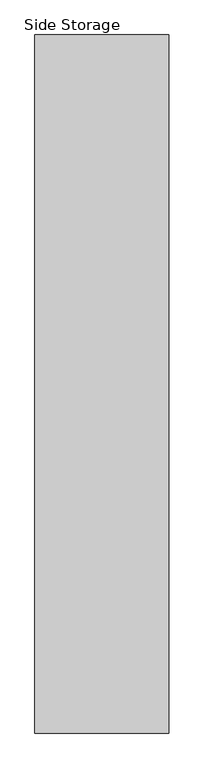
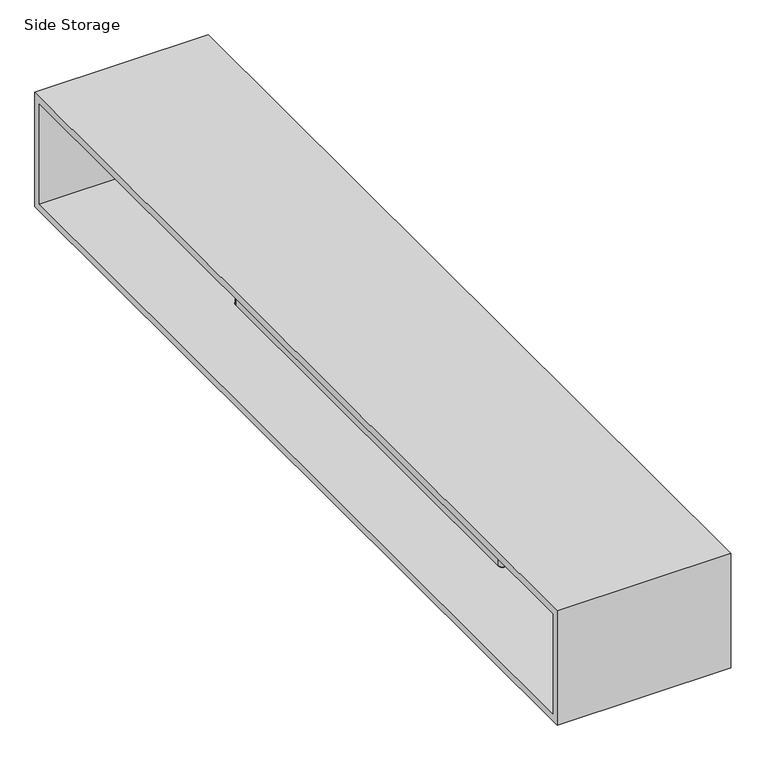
"""IFC4 building model written with IfcOpenShell, lengths in millimetres: furniture geometry, Steelcase Turnstone - Bivi - Arch Accessories - Side Storage : Side Storage."""

from ifc_helpers import new_model, si_unit, point, frame, frame_2d, origin, place, context, project, spatial, polyline, circle_curve, trimmed, segment, composite_curve, outline, extrude, source, transform, mapped, element, save
from ifc_brep_helpers import plane_surface, revolved_surface, advanced_brep


def side_storage_3572fcca(model_context):
    return source(origin(), model_context, "Body", "SolidModel", [
        advanced_brep(
        [(932.561, -585.2795, 1077.5188), (932.561, -585.2795, 873.5568), (932.561, 937.7045, 873.5568), (932.561, 937.7045, 1077.5188), (932.561, 924.6235, 1064.4378), (932.561, 924.6235, 886.6378), (932.561, -572.1985, 886.6378), (932.561, -572.1985, 1064.4378), (640.461, -585.2795, 1077.5188), (640.461, 937.7045, 1077.5188), (640.461, 937.7045, 873.5568), (640.461, -585.2795, 873.5568), (640.461, 924.6235, 1064.4378), (640.461, -572.1985, 1064.4378), (640.461, -572.1985, 886.6378), (640.461, 924.6235, 886.6378), (766.0005, 566.7375, 873.5568), (759.6505, 560.3875, 873.5568), (759.6505, -207.9625, 873.5568), (766.0005, -214.3125, 873.5568), (804.8552799, -214.3125, 873.5568), (812.4825, -206.6852799, 873.5568), (812.4825, 559.1102799, 873.5568), (804.8552799, 566.7375, 873.5568), (759.6505, 560.3875, 886.6378), (766.0005, 566.7375, 886.6378), (804.8552799, 566.7375, 886.6378), (812.4825, 559.1102799, 886.6378), (812.4825, -206.6852799, 886.6378), (804.8552799, -214.3125, 886.6378), (766.0005, -214.3125, 886.6378), (759.6505, -207.9625, 886.6378)],
        [
            (0, 1),
            (1, 2),
            (2, 3),
            (3, 0),
            (4, 5),
            (5, 6),
            (6, 7),
            (7, 4),
            (8, 9),
            (9, 10),
            (10, 11),
            (11, 8),
            (12, 13),
            (13, 14),
            (14, 15),
            (15, 12),
            (0, 8),
            (11, 1),
            (10, 2),
            (16, 17, circle_curve(frame((766.0005, 560.3875, 873.5568), z_axis=(0.0, 0.0, 1.0), x_axis=(1.0, 0.0, 0.0)), 6.35)),
            (17, 18),
            (18, 19, circle_curve(frame((766.0005, -207.9625, 873.5568), z_axis=(0.0, 0.0, 1.0), x_axis=(1.0, 0.0, 0.0)), 6.35)),
            (19, 20),
            (20, 21, circle_curve(frame((804.8552799, -206.6852799, 873.5568), z_axis=(0.0, 0.0, 1.0), x_axis=(1.0, 0.0, 0.0)), 7.6272201)),
            (21, 22),
            (22, 23, circle_curve(frame((804.8552799, 559.1102799, 873.5568), z_axis=(0.0, 0.0, 1.0), x_axis=(1.0, 0.0, 0.0)), 7.6272201)),
            (23, 16),
            (9, 3),
            (4, 12),
            (15, 5),
            (14, 6),
            (24, 25, circle_curve(frame((766.0005, 560.3875, 886.6378), z_axis=(0.0, 0.0, -1.0), x_axis=(1.0, 0.0, 0.0)), 6.35)),
            (25, 26),
            (26, 27, circle_curve(frame((804.8552799, 559.1102799, 886.6378), z_axis=(0.0, 0.0, -1.0), x_axis=(1.0, 0.0, 0.0)), 7.6272201)),
            (27, 28),
            (28, 29, circle_curve(frame((804.8552799, -206.6852799, 886.6378), z_axis=(0.0, 0.0, -1.0), x_axis=(1.0, 0.0, 0.0)), 7.6272201)),
            (29, 30),
            (30, 31, circle_curve(frame((766.0005, -207.9625, 886.6378), z_axis=(0.0, 0.0, -1.0), x_axis=(1.0, 0.0, 0.0)), 6.35)),
            (31, 24),
            (13, 7),
            (16, 25),
            (24, 17),
            (31, 18),
            (30, 19),
            (29, 20),
            (28, 21),
            (27, 22),
            (26, 23),
        ],
        [
            plane_surface(frame((932.561, -585.2795, 1077.5188), z_axis=(1.0, 0.0, 0.0), x_axis=(0.0, 0.0, -1.0))),
            plane_surface(frame((640.461, -585.2795, 1077.5188), z_axis=(-1.0, 0.0, 0.0), x_axis=(0.0, 0.0, 1.0))),
            plane_surface(frame((932.561, -585.2795, 1077.5188), z_axis=(0.0, -1.0, 0.0), x_axis=(-1.0, 0.0, 0.0))),
            plane_surface(frame((932.561, -585.2795, 873.5568), z_axis=(0.0, 0.0, -1.0), x_axis=(-1.0, 0.0, 0.0))),
            plane_surface(frame((932.561, 937.7045, 873.5568), z_axis=(0.0, 1.0, 0.0), x_axis=(-1.0, 0.0, 0.0))),
            plane_surface(frame((932.561, 937.7045, 1077.5188), z_axis=(0.0, 0.0, 1.0), x_axis=(-1.0, 0.0, 0.0))),
            plane_surface(frame((932.561, 924.6235, 1064.4378), z_axis=(0.0, -1.0, 0.0), x_axis=(-1.0, 0.0, 0.0))),
            plane_surface(frame((932.561, 924.6235, 886.6378), z_axis=(0.0, 0.0, 1.0), x_axis=(-1.0, 0.0, 0.0))),
            plane_surface(frame((932.561, -572.1985, 886.6378), z_axis=(0.0, 1.0, 0.0), x_axis=(-1.0, 0.0, 0.0))),
            plane_surface(frame((932.561, -572.1985, 1064.4378), z_axis=(0.0, 0.0, -1.0), x_axis=(-1.0, 0.0, 0.0))),
            revolved_surface(polyline([(772.3505, 560.3875, 886.6378), (772.3505, 560.3875, 873.5568)]), (766.0005, 560.3875, 860.8568), (0.0, 0.0, 1.0)),
            plane_surface(frame((759.6505, 560.3875, 886.6378), z_axis=(1.0, 0.0, 0.0), x_axis=(0.0, 0.0, -1.0))),
            revolved_surface(polyline([(772.3505, -207.9625, 886.6378), (772.3505, -207.9625, 873.5568)]), (766.0005, -207.9625, 860.8568), (0.0, 0.0, 1.0)),
            plane_surface(frame((766.0005, -214.3125, 886.6378), z_axis=(0.0, 1.0, 0.0), x_axis=(0.0, 0.0, -1.0))),
            revolved_surface(polyline([(812.4825000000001, -206.6852799, 886.6378), (812.4825000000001, -206.6852799, 873.5568)]), (804.8552799, -206.6852799, 860.8568), (0.0, 0.0, 1.0)),
            plane_surface(frame((812.4825, -206.6852799, 886.6378), z_axis=(-1.0, 0.0, 0.0), x_axis=(0.0, 0.0, -1.0))),
            revolved_surface(polyline([(812.4825000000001, 559.1102799, 886.6378), (812.4825000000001, 559.1102799, 873.5568)]), (804.8552799, 559.1102799, 860.8568), (0.0, 0.0, 1.0)),
            plane_surface(frame((804.8552799, 566.7375, 886.6378), z_axis=(0.0, -1.0, 0.0), x_axis=(0.0, 0.0, -1.0))),
        ],
        [
            (0, [[1, 2, 3, 4], [5, 6, 7, 8]]),
            (1, [[9, 10, 11, 12], [13, 14, 15, 16]]),
            (2, [[-1, 17, -12, 18]]),
            (3, [[-2, -18, -11, 19], [20, 21, 22, 23, 24, 25, 26, 27]]),
            (4, [[-3, -19, -10, 28]]),
            (5, [[-4, -28, -9, -17]]),
            (6, [[-5, 29, -16, 30]]),
            (7, [[-6, -30, -15, 31], [32, 33, 34, 35, 36, 37, 38, 39]]),
            (8, [[-7, -31, -14, 40]]),
            (9, [[-8, -40, -13, -29]]),
            (10, [[41, -32, 42, -20]]),
            (11, [[-42, -39, 43, -21]]),
            (12, [[-43, -38, 44, -22]]),
            (13, [[-44, -37, 45, -23]]),
            (14, [[-45, -36, 46, -24]]),
            (15, [[-46, -35, 47, -25]]),
            (16, [[-47, -34, 48, -26]]),
            (17, [[-41, -27, -48, -33]]),
        ],
    ),
        extrude(outline(composite_curve([segment(polyline([(766.8498453, 565.4675), (805.368444, 565.4675)]), True, "CONTINUOUS"), segment(trimmed(circle_curve(frame_2d((805.368444, 558.353444)), 7.114056), [point((805.368444, 565.4675))], [point((812.4825, 558.353444))], False, "CARTESIAN"), True, "CONTINUOUS"), segment(polyline([(812.4825, 558.353444), (812.4825, -205.1637714)]), True, "CONTINUOUS"), segment(trimmed(circle_curve(frame_2d((804.6037714, -205.1637714)), 7.8787286), [point((812.4825, -205.1637714))], [point((804.6037714, -213.0425))], False, "CARTESIAN"), True, "CONTINUOUS"), segment(polyline([(804.6037714, -213.0425), (767.7260122, -213.0425)]), True, "CONTINUOUS"), segment(trimmed(circle_curve(frame_2d((767.7260122, -204.9669878)), 8.0755122), [point((767.7260122, -213.0425))], [point((759.6505, -204.9669878))], False, "CARTESIAN"), True, "CONTINUOUS"), segment(polyline([(759.6505, -204.9669878), (759.6505, 558.2681547)]), True, "CONTINUOUS"), segment(trimmed(circle_curve(frame_2d((766.8498453, 558.2681547)), 7.1993453), [point((759.6505, 558.2681547))], [point((766.8498453, 565.4675))], False, "CARTESIAN"), True, "CONTINUOUS")], self_intersect=False)), frame((0.0, 0.0, 886.6378), z_axis=(0.0, 0.0, 1.0), x_axis=(1.0, 0.0, 0.0)), (0.0, 0.0, 1.0), 177.8),
        extrude(outline(composite_curve([segment(polyline([(872.0582, 759.2568), (873.5568, 759.2568), (873.5568, 745.4344629)]), True, "CONTINUOUS"), segment(trimmed(circle_curve(frame_2d((870.3611371, 745.4344629)), 3.1956629), [point((873.5568, 745.4344629))], [point((870.3611371, 742.2388))], False, "CARTESIAN"), True, "CONTINUOUS"), segment(polyline([(870.3611371, 742.2388), (860.8568, 742.2388), (860.8568, 743.7374), (870.1715338, 743.7374)]), True, "CONTINUOUS"), segment(trimmed(circle_curve(frame_2d((870.1715338, 745.6240662)), 1.8866662), [point((870.1715338, 743.7374))], [point((872.0582, 745.6240662))], True, "CARTESIAN"), True, "CONTINUOUS"), segment(polyline([(872.0582, 745.6240662), (872.0582, 759.2568)]), True, "CONTINUOUS")], self_intersect=False)), frame((0.0, -486.0925, 0.0), z_axis=(0.0, 1.0, 0.0), x_axis=(0.0, 0.0, 1.0)), (0.0, 0.0, 1.0), 1324.61),
        extrude(outline(composite_curve([segment(polyline([(872.0582, 812.8762), (872.0582, 826.5089338)]), True, "CONTINUOUS"), segment(trimmed(circle_curve(frame_2d((870.1715338, 826.5089338)), 1.8866662), [point((872.0582, 826.5089338))], [point((870.1715338, 828.3956))], True, "CARTESIAN"), True, "CONTINUOUS"), segment(polyline([(870.1715338, 828.3956), (860.8568, 828.3956), (860.8568, 829.8942), (870.3611371, 829.8942)]), True, "CONTINUOUS"), segment(trimmed(circle_curve(frame_2d((870.3611371, 826.6985371)), 3.1956629), [point((870.3611371, 829.8942))], [point((873.5568, 826.6985371))], False, "CARTESIAN"), True, "CONTINUOUS"), segment(polyline([(873.5568, 826.6985371), (873.5568, 812.8762), (872.0582, 812.8762)]), True, "CONTINUOUS")], self_intersect=False)), frame((0.0, -486.0925, 0.0), z_axis=(0.0, 1.0, 0.0), x_axis=(0.0, 0.0, 1.0)), (0.0, 0.0, 1.0), 1324.61),
    ])


if __name__ == "__main__":
    model = new_model("IFC4")
    model_context = context("Model", 3, world=origin())
    ifc_project = project(units=[si_unit("LENGTHUNIT", "METRE", prefix="MILLI")], contexts=[model_context])
    site = spatial("IfcSite", under=ifc_project)
    building = spatial("IfcBuilding", under=site)
    placement = place(None, origin())
    side_storage_shape = side_storage_3572fcca(model_context)
    element("IfcFurniture", 1, ObjectType="Steelcase Turnstone - Bivi - Arch Accessories - Side Storage : Side Storage", at=placement, inside=building, context=model_context, shape_type="MappedRepresentation", body=[
        mapped(side_storage_shape, transform((0.0, 0.0, 0.0), x_axis=(1.0, 0.0, 0.0), y_axis=(0.0, 1.0, 0.0), z_axis=(0.0, 0.0, 1.0))),
    ])
    save(model, "model.ifc")
